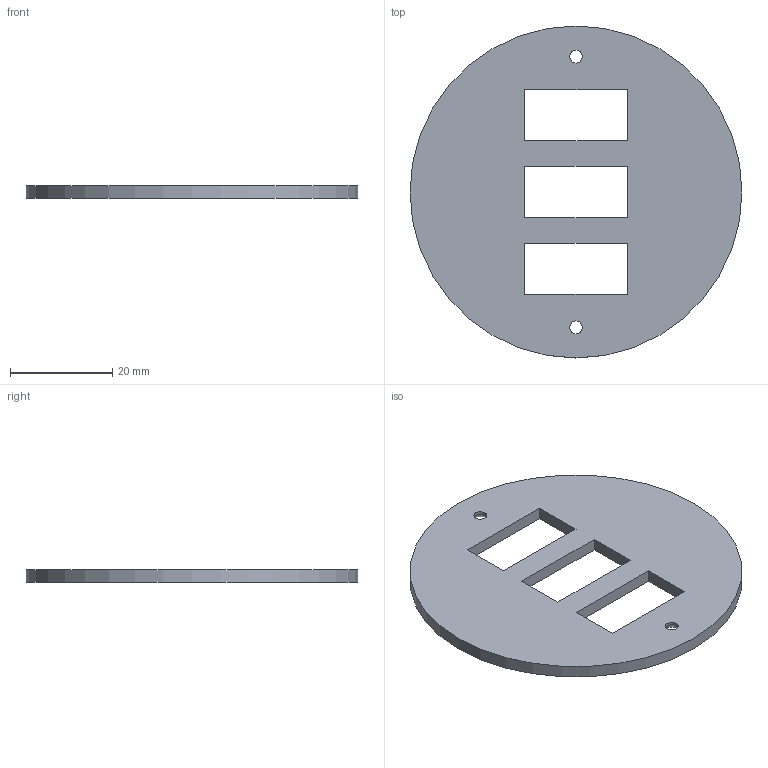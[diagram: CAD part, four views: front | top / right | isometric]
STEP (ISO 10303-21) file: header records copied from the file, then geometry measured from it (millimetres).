
FILE_DESCRIPTION(/* description */ (''),/* implementation_level */ '2;1');
FILE_NAME(/* name */ 'G:\Unidades compartidas\PROYECTO PANAMA\Archivos para pagina web\Cansat_Estandar\STEP\Tapa CanSat superior.stp',/* time_stamp */ '2022-06-07T17:41:51-05:00',/* author */ ('pined'),/* organization */ (''),/* preprocessor_version */ 'ST-DEVELOPER v18.1',/* originating_system */ 'Autodesk Inventor 2022',/* authorisation */ '');
FILE_SCHEMA (('AUTOMOTIVE_DESIGN { 1 0 10303 214 3 1 1 }'));
Length unit declared in the file: millimetre
Products named in the file (1): Tapa CubeSat cerrado
Bounding box: 65 x 65 x 2.5 mm (x, y, z)
Volume: 6728.5 mm3; surface area: 6408.7 mm2
Topology: 1 solids, 1 shells, 19 faces, 49 edges, 32 vertices
Faces by surface type: plane 14, cylinder 3, cone 2
Full cylindrical faces by diameter (mm): 2.5 x2, 65 x1
Entity records: 647 total; most frequent: CARTESIAN_POINT 102, ORIENTED_EDGE 98, DIRECTION 97, EDGE_CURVE 49, LINE 41, VECTOR 41, VERTEX_POINT 32, EDGE_LOOP 29
